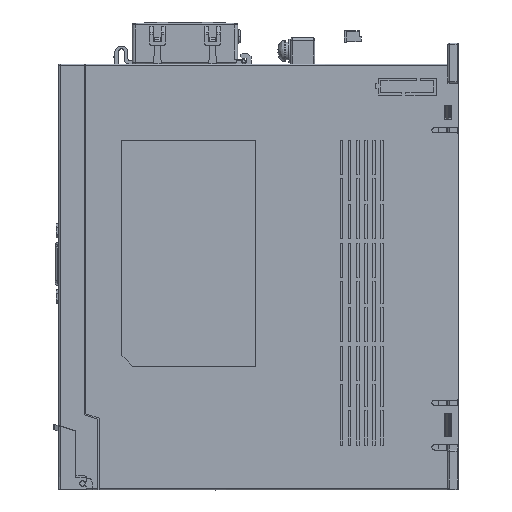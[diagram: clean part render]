
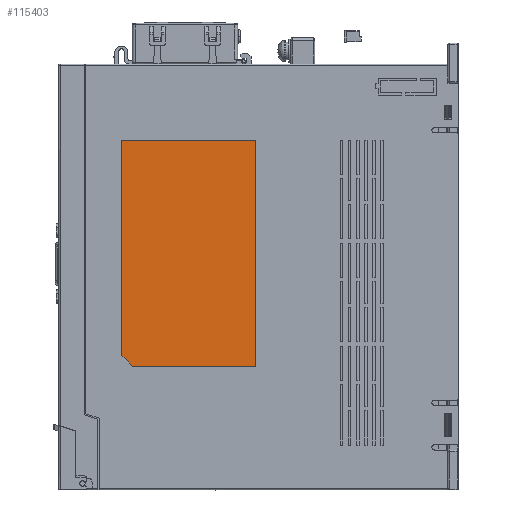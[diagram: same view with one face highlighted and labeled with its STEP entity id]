
A CAD part, left-side view. The second image highlights one B-rep face of the part: STEP entity #115403.
In plain terms, the highlighted planar face has unit normal (-1, 0, 0).
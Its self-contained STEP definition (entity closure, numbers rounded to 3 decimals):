
#42722=DIRECTION('',(0.,0.,1.));
#42723=VECTOR('',#42722,86.);
#42724=CARTESIAN_POINT('',(-17.2,2.,-114.9));
#42725=LINE('',#42724,#42723);
#42726=DIRECTION('',(0.,-1.,0.));
#42727=VECTOR('',#42726,47.);
#42728=CARTESIAN_POINT('',(-17.2,49.,-114.9));
#42729=LINE('',#42728,#42727);
#42730=DIRECTION('',(0.,-0.707,-0.707));
#42731=VECTOR('',#42730,5.657);
#42732=CARTESIAN_POINT('',(-17.2,53.,-110.9));
#42733=LINE('',#42732,#42731);
#42734=DIRECTION('',(0.,0.,-1.));
#42735=VECTOR('',#42734,82.);
#42736=CARTESIAN_POINT('',(-17.2,53.,-28.9));
#42737=LINE('',#42736,#42735);
#42738=DIRECTION('',(0.,1.,0.));
#42739=VECTOR('',#42738,51.);
#42740=CARTESIAN_POINT('',(-17.2,2.,-28.9));
#42741=LINE('',#42740,#42739);
#50347=CARTESIAN_POINT('',(-17.2,53.,-28.9));
#50348=CARTESIAN_POINT('',(-17.2,53.,-110.9));
#50349=VERTEX_POINT('',#50347);
#50350=VERTEX_POINT('',#50348);
#50351=CARTESIAN_POINT('',(-17.2,2.,-28.9));
#50352=VERTEX_POINT('',#50351);
#50353=CARTESIAN_POINT('',(-17.2,2.,-114.9));
#50354=VERTEX_POINT('',#50353);
#50355=CARTESIAN_POINT('',(-17.2,49.,-114.9));
#50356=VERTEX_POINT('',#50355);
#115387=CARTESIAN_POINT('',(-17.2,27.5,-71.9));
#115388=DIRECTION('',(1.,0.,0.));
#115389=DIRECTION('',(0.,-1.,0.));
#115390=AXIS2_PLACEMENT_3D('',#115387,#115388,#115389);
#115391=PLANE('',#115390);
#115393=ORIENTED_EDGE('',*,*,#115392,.F.);
#115395=ORIENTED_EDGE('',*,*,#115394,.F.);
#115397=ORIENTED_EDGE('',*,*,#115396,.F.);
#115398=ORIENTED_EDGE('',*,*,#115377,.F.);
#115400=ORIENTED_EDGE('',*,*,#115399,.F.);
#115401=EDGE_LOOP('',(#115393,#115395,#115397,#115398,#115400));
#115402=FACE_OUTER_BOUND('',#115401,.F.);
#115377=EDGE_CURVE('',#50349,#50350,#42737,.T.);
#115392=EDGE_CURVE('',#50354,#50352,#42725,.T.);
#115394=EDGE_CURVE('',#50356,#50354,#42729,.T.);
#115396=EDGE_CURVE('',#50350,#50356,#42733,.T.);
#115399=EDGE_CURVE('',#50352,#50349,#42741,.T.);
#115403=ADVANCED_FACE('',(#115402),#115391,.F.);
